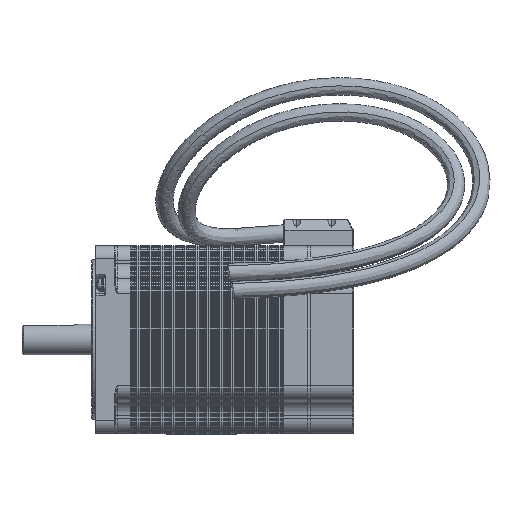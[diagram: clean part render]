
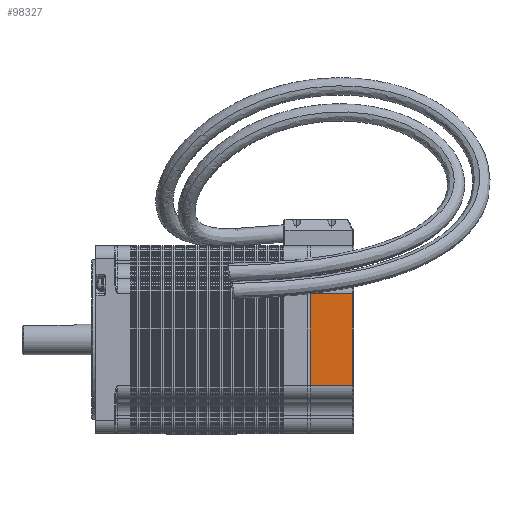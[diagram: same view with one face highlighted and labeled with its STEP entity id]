
A CAD part, left-side view. The second image highlights one B-rep face of the part: STEP entity #98327.
In plain terms, the highlighted planar face has unit normal (-1, 0, 0).
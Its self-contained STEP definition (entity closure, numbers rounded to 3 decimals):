
#15892 = CARTESIAN_POINT ( 'NONE',  ( -43., -118., 21. ) ) ;
#17918 = VECTOR ( 'NONE', #241366, 1000. ) ;
#20552 = VERTEX_POINT ( 'NONE', #248126 ) ;
#20845 = CARTESIAN_POINT ( 'NONE',  ( -43., -98., -21. ) ) ;
#42549 = CARTESIAN_POINT ( 'NONE',  ( -43., -118., 21. ) ) ;
#45874 = ORIENTED_EDGE ( 'NONE', *, *, #133471, .T. ) ;
#51447 = DIRECTION ( 'NONE',  ( 0., 1., 0. ) ) ;
#61935 = EDGE_LOOP ( 'NONE', ( #135474, #92204, #159819, #45874 ) ) ;
#62026 = DIRECTION ( 'NONE',  ( 0., 0., 1. ) ) ;
#64206 = VECTOR ( 'NONE', #62026, 1000. ) ;
#65789 = CARTESIAN_POINT ( 'NONE',  ( -43., -117.5, 21. ) ) ;
#68077 = CARTESIAN_POINT ( 'NONE',  ( -43., -118., -21. ) ) ;
#79686 = PLANE ( 'NONE',  #183761 ) ;
#80908 = DIRECTION ( 'NONE',  ( 0., 0., -1. ) ) ;
#92204 = ORIENTED_EDGE ( 'NONE', *, *, #162202, .T. ) ;
#92838 = CARTESIAN_POINT ( 'NONE',  ( -43., -117.5, 21. ) ) ;
#98327 = ADVANCED_FACE ( 'NONE', ( #155318 ), #79686, .F. ) ;
#105091 = LINE ( 'NONE', #125616, #17918 ) ;
#110187 = LINE ( 'NONE', #65789, #64206 ) ;
#110291 = LINE ( 'NONE', #68077, #197298 ) ;
#113291 = LINE ( 'NONE', #15892, #184066 ) ;
#122973 = EDGE_CURVE ( 'NONE', #170563, #155966, #113291, .T. ) ;
#125616 = CARTESIAN_POINT ( 'NONE',  ( -43., -98., 21. ) ) ;
#133471 = EDGE_CURVE ( 'NONE', #155966, #225690, #105091, .T. ) ;
#135474 = ORIENTED_EDGE ( 'NONE', *, *, #181583, .F. ) ;
#155318 = FACE_OUTER_BOUND ( 'NONE', #61935, .T. ) ;
#155966 = VERTEX_POINT ( 'NONE', #165581 ) ;
#157841 = DIRECTION ( 'NONE',  ( 1., 0., 0. ) ) ;
#159819 = ORIENTED_EDGE ( 'NONE', *, *, #122973, .T. ) ;
#162202 = EDGE_CURVE ( 'NONE', #20552, #170563, #110187, .T. ) ;
#165581 = CARTESIAN_POINT ( 'NONE',  ( -43., -98., 21. ) ) ;
#170563 = VERTEX_POINT ( 'NONE', #92838 ) ;
#172296 = DIRECTION ( 'NONE',  ( 0., 1., 0. ) ) ;
#181583 = EDGE_CURVE ( 'NONE', #20552, #225690, #110291, .T. ) ;
#183761 = AXIS2_PLACEMENT_3D ( 'NONE', #42549, #157841, #80908 ) ;
#184066 = VECTOR ( 'NONE', #172296, 1000. ) ;
#197298 = VECTOR ( 'NONE', #51447, 1000. ) ;
#225690 = VERTEX_POINT ( 'NONE', #20845 ) ;
#241366 = DIRECTION ( 'NONE',  ( 0., 0., -1. ) ) ;
#248126 = CARTESIAN_POINT ( 'NONE',  ( -43., -117.5, -21. ) ) ;
